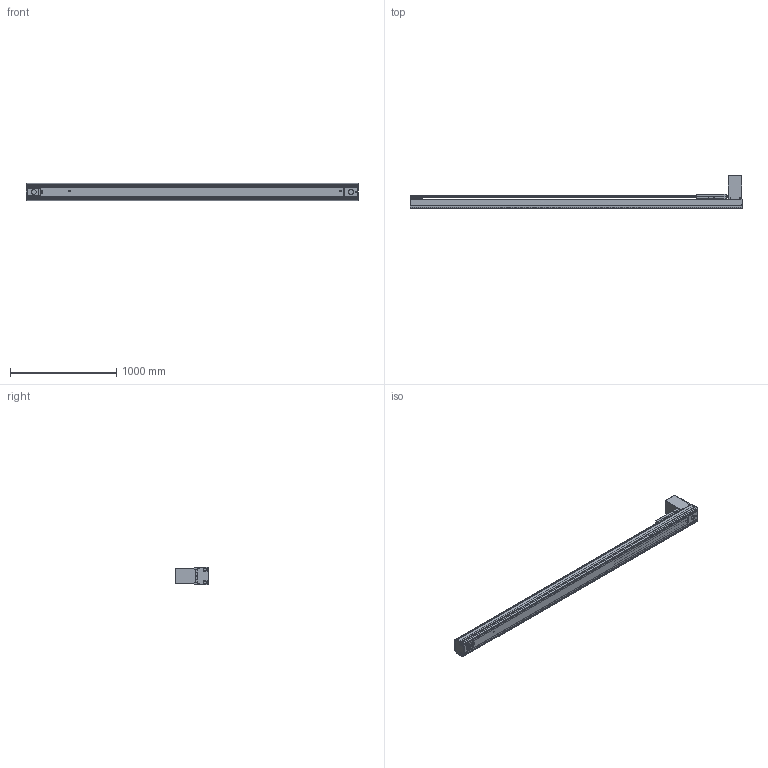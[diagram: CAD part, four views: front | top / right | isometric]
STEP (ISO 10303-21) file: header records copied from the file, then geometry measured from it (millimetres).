
FILE_DESCRIPTION((''),'2;1');
FILE_NAME('BE50G-BT-L19N-R5_IGS_PRT','2017-06-18T',(' '),(''),'PRO/ENGINEER BY PARAMETRIC TECHNOLOGY CORPORATION, 2015030','PRO/ENGINEER BY PARAMETRIC TECHNOLOGY CORPORATION, 2015030','');
FILE_SCHEMA(('CONFIG_CONTROL_DESIGN'));
Products named in the file (1): BE50G-BT-L19N-R5_IGS_PRT
Bounding box: 3120 x 309 x 160 mm (x, y, z)
Volume: 11767346.2 mm3; surface area: 5357927.1 mm2
Topology: 9 solids, 302 shells, 2187 faces, 6407 edges, 4424 vertices
Faces by surface type: cylinder 1153, plane 813, cone 178, sphere 23, torus 20
Entity records: 77088 total; most frequent: CARTESIAN_POINT 18541, DIRECTION 12069, ORIENTED_EDGE 11710, EDGE_CURVE 6333, AXIS2_PLACEMENT_3D 4581, VERTEX_POINT 4424, VECTOR 2907, LINE 2907
